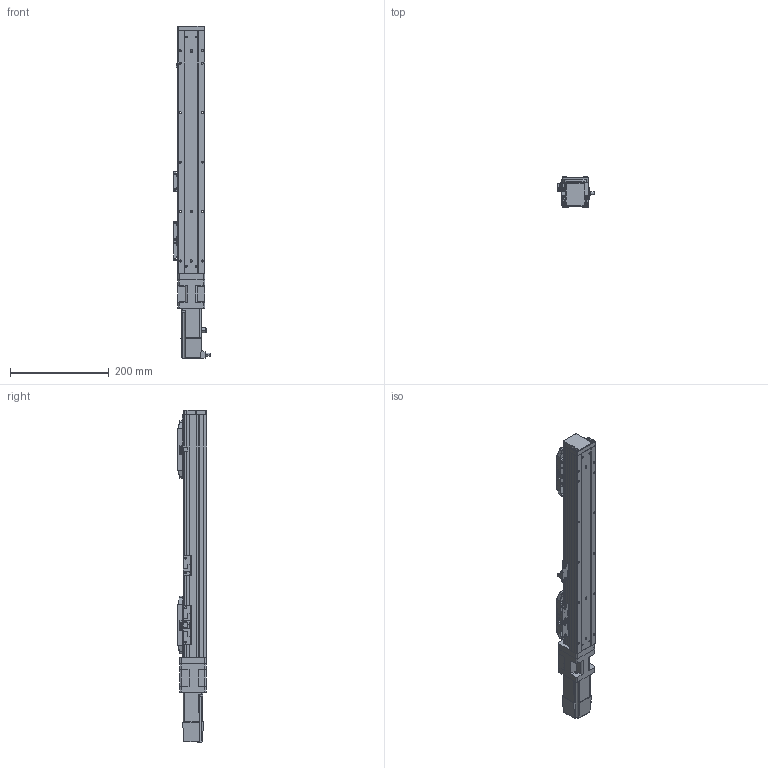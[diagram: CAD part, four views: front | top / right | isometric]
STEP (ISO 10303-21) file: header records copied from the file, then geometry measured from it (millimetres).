
FILE_DESCRIPTION (( 'STEP AP203' ), '1' );
FILE_NAME ('3.STEP', '2020-10-31T07:37:35', ( '' ), ( '' ), 'SwSTEP 2.0', 'SolidWorks 2016', '' );
FILE_SCHEMA (( 'CONFIG_CONTROL_DESIGN' ));
Length unit declared in the file: millimetre
Products named in the file (11): CTH5S-BC-06; 3; CTH5S-BC-05; CTH5S-BC-03; CTH5S-BC-T10; CTH5S-BC-04; CTH5S-BC-07; CTH5S-BC-02; CTH5S-BC-菁釱; CTH5S-BC-HZ; CTH5S-BC-01
Assembly tree (16 placements, depth 2):
  3
    CTH5S-BC-菁釱
    CTH5S-BC-01
    CTH5S-BC-02
    CTH5S-BC-03
    CTH5S-BC-04
    CTH5S-BC-05  x2
    CTH5S-BC-06  x3
    CTH5S-BC-07  x3
    CTH5S-BC-HZ  x2
    CTH5S-BC-T10
Bounding box: 74.7 x 60 x 671.1 mm (x, y, z)
Volume: 1365397.1 mm3; surface area: 280925.9 mm2
Topology: 36 solids, 36 shells, 1963 faces, 5347 edges, 3436 vertices
Faces by surface type: plane 990, cylinder 617, cone 226, bspline 130
Entity records: 43898 total; most frequent: CARTESIAN_POINT 11460, ORIENTED_EDGE 6762, DIRECTION 6091, EDGE_CURVE 3381, VERTEX_POINT 2206, AXIS2_PLACEMENT_3D 2052, VECTOR 1987, LINE 1987
